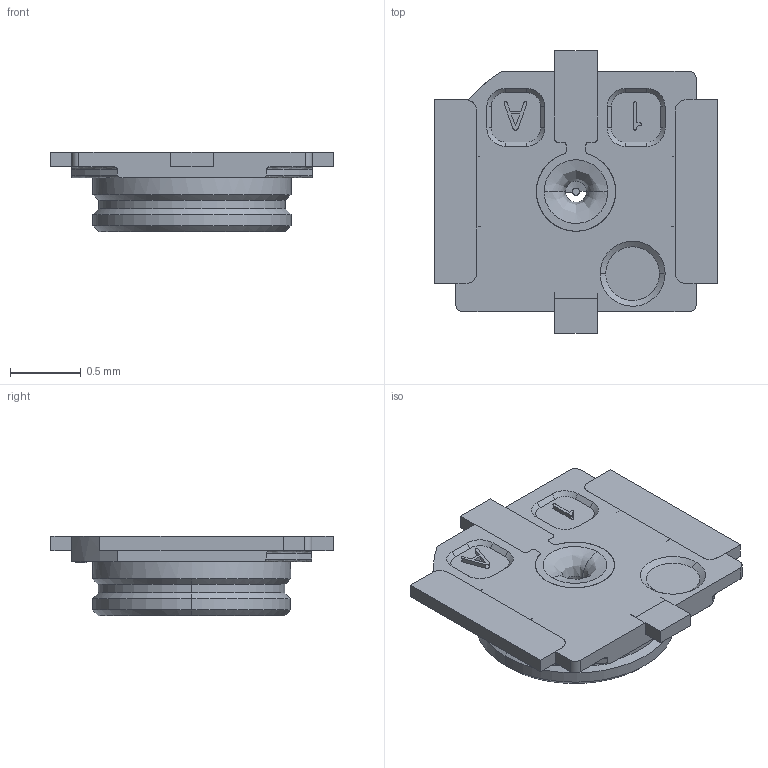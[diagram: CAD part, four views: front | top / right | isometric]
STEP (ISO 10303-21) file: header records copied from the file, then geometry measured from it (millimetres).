
FILE_DESCRIPTION (( 'STEP AP203' ), '1' );
FILE_NAME ('Îå´úGT-RF5056A-01G.STEP', '2023-04-07T03:56:23', ( '' ), ( '' ), 'SwSTEP 2.0', 'SolidWorks 2023', '' );
FILE_SCHEMA (( 'CONFIG_CONTROL_DESIGN' ));
Length unit declared in the file: millimetre
Products named in the file (1): 五代GT-RF5056A-01G
Bounding box: 2 x 2 x 0.56 mm (x, y, z)
Surface area: 16.8 mm2 (no closed solid volume)
Topology: 0 solids, 91 shells, 348 faces, 1301 edges, 1042 vertices
Faces by surface type: bspline 275, plane 73
Entity records: 16734 total; most frequent: CARTESIAN_POINT 9193, ORIENTED_EDGE 1896, EDGE_CURVE 1304, VERTEX_POINT 1054, B_SPLINE_CURVE_WITH_KNOTS 911, DIRECTION 371, EDGE_LOOP 363, FACE_OUTER_BOUND 349
